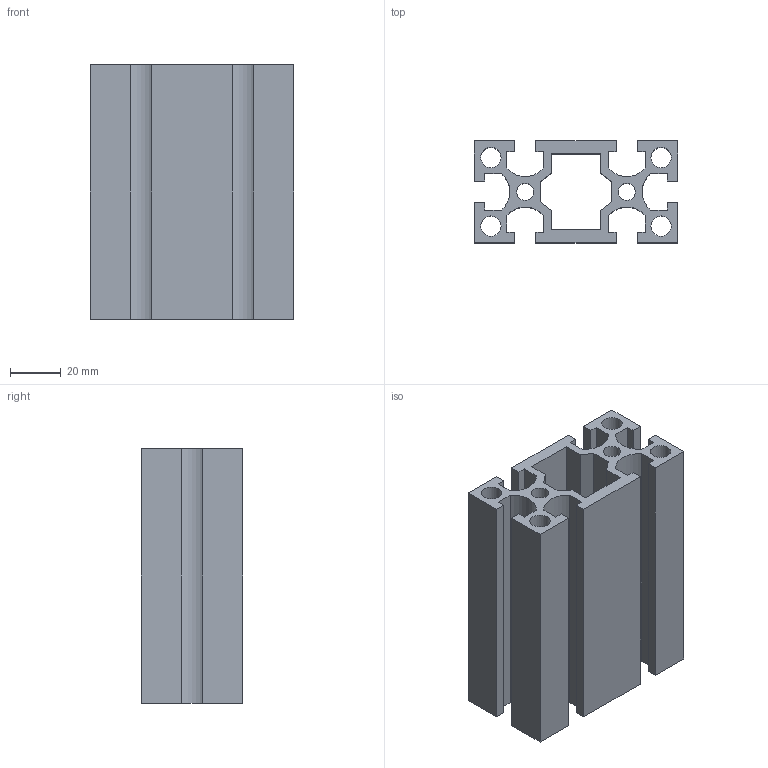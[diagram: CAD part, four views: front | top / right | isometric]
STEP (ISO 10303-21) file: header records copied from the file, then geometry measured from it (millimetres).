
FILE_DESCRIPTION(/* description */ ('Unknown'),/* implementation_level */ '2;1');
FILE_NAME(/* name */ 'NM4080',/* time_stamp */ '2026-08-31T11:37:18+08:00',/* author */ ('Unknown'),/* organization */ ('Unknown'),/* preprocessor_version */ 'ST-DEVELOPER v16.7',/* originating_system */ 'DEX',/* authorisation */ $);
FILE_SCHEMA (('AUTOMOTIVE_DESIGN {1 0 10303 214 3 1 1}'));
Length unit declared in the file: millimetre
Products named in the file (1): 4080-
Bounding box: 80 x 40 x 100 mm (x, y, z)
Volume: 126554.2 mm3; surface area: 72847.6 mm2
Topology: 1 solids, 1 shells, 72 faces, 210 edges, 140 vertices
Faces by surface type: plane 60, cylinder 12
Full cylindrical faces by diameter (mm): 6.8 x2, 8 x4
Entity records: 2386 total; most frequent: CARTESIAN_POINT 417, ORIENTED_EDGE 408, DIRECTION 374, EDGE_CURVE 204, LINE 180, VECTOR 180, VERTEX_POINT 140, AXIS2_PLACEMENT_3D 97
